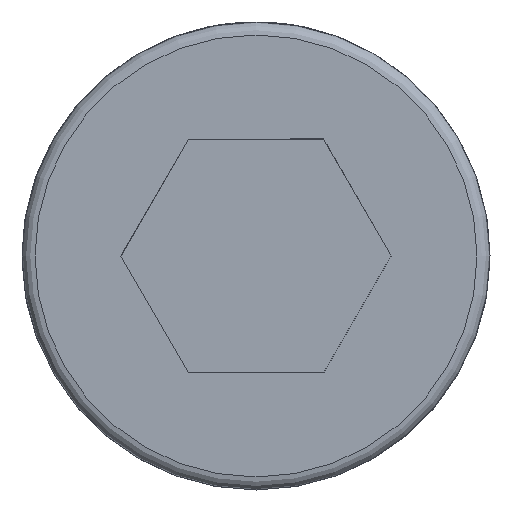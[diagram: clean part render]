
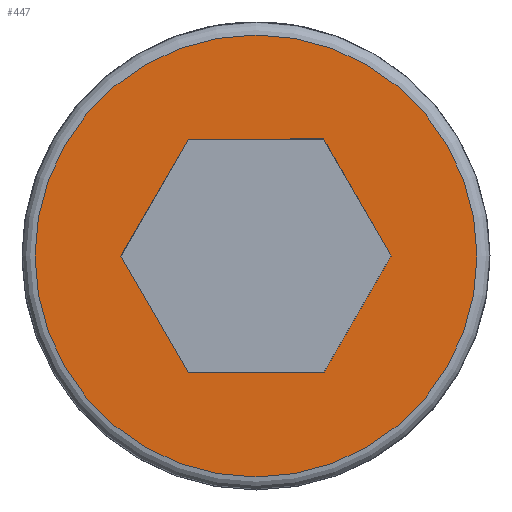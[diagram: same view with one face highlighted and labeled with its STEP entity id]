
A CAD part, left-side view. The second image highlights one B-rep face of the part: STEP entity #447.
In plain terms, the highlighted planar face has unit normal (-1, 0, 0).
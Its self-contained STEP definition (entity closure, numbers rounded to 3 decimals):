
#377=CARTESIAN_POINT('',(140.0,0.,8.5));
#378=VERTEX_POINT('',#377);
#379=CARTESIAN_POINT('',(140.0,0.0,0.0));
#380=DIRECTION('',(1.0,0.0,0.0));
#381=DIRECTION('',(0.0,0.0,-1.0));
#382=AXIS2_PLACEMENT_3D('',#379,#380,#381);
#383=CIRCLE('',#382,8.5);
#384=EDGE_CURVE('',#378,#378,#383,.T.);
#389=CARTESIAN_POINT('',(140.0,0.0,4.5));
#390=DIRECTION('',(-1.0,0.0,0.0));
#391=DIRECTION('',(0.0,0.0,1.0));
#392=AXIS2_PLACEMENT_3D('',#389,#390,#391);
#393=PLANE('',#392);
#394=ORIENTED_EDGE('',*,*,#384,.F.);
#395=EDGE_LOOP('',(#394));
#396=FACE_OUTER_BOUND('',#395,.T.);
#397=CARTESIAN_POINT('',(140.0,-2.598,-4.5));
#398=VERTEX_POINT('',#397);
#399=CARTESIAN_POINT('',(140.0,2.598,-4.5));
#400=VERTEX_POINT('',#399);
#401=CARTESIAN_POINT('',(140.0,-2.598,-4.5));
#402=DIRECTION('',(0.0,1.0,0.0));
#403=VECTOR('',#402,5.196);
#404=LINE('',#401,#403);
#405=EDGE_CURVE('',#398,#400,#404,.T.);
#406=ORIENTED_EDGE('',*,*,#405,.T.);
#407=CARTESIAN_POINT('',(140.0,5.196,0.));
#408=VERTEX_POINT('',#407);
#409=CARTESIAN_POINT('',(140.0,2.598,-4.5));
#410=DIRECTION('',(0.0,0.5,0.866));
#411=VECTOR('',#410,5.196);
#412=LINE('',#409,#411);
#413=EDGE_CURVE('',#400,#408,#412,.T.);
#414=ORIENTED_EDGE('',*,*,#413,.T.);
#415=CARTESIAN_POINT('',(140.0,2.598,4.5));
#416=VERTEX_POINT('',#415);
#417=CARTESIAN_POINT('',(140.0,5.196,0.));
#418=DIRECTION('',(0.0,-0.5,0.866));
#419=VECTOR('',#418,5.196);
#420=LINE('',#417,#419);
#421=EDGE_CURVE('',#408,#416,#420,.T.);
#422=ORIENTED_EDGE('',*,*,#421,.T.);
#423=CARTESIAN_POINT('',(140.0,-2.598,4.5));
#424=VERTEX_POINT('',#423);
#425=CARTESIAN_POINT('',(140.0,2.598,4.5));
#426=DIRECTION('',(0.0,-1.0,0.0));
#427=VECTOR('',#426,5.196);
#428=LINE('',#425,#427);
#429=EDGE_CURVE('',#416,#424,#428,.T.);
#430=ORIENTED_EDGE('',*,*,#429,.T.);
#431=CARTESIAN_POINT('',(140.0,-5.196,0.0));
#432=VERTEX_POINT('',#431);
#433=CARTESIAN_POINT('',(140.0,-2.598,4.5));
#434=DIRECTION('',(0.0,-0.5,-0.866));
#435=VECTOR('',#434,5.196);
#436=LINE('',#433,#435);
#437=EDGE_CURVE('',#424,#432,#436,.T.);
#438=ORIENTED_EDGE('',*,*,#437,.T.);
#439=CARTESIAN_POINT('',(140.0,-5.196,0.0));
#440=DIRECTION('',(0.0,0.5,-0.866));
#441=VECTOR('',#440,5.196);
#442=LINE('',#439,#441);
#443=EDGE_CURVE('',#432,#398,#442,.T.);
#444=ORIENTED_EDGE('',*,*,#443,.T.);
#445=EDGE_LOOP('',(#406,#414,#422,#430,#438,#444));
#446=FACE_BOUND('',#445,.T.);
#447=ADVANCED_FACE('',(#396,#446),#393,.T.);
